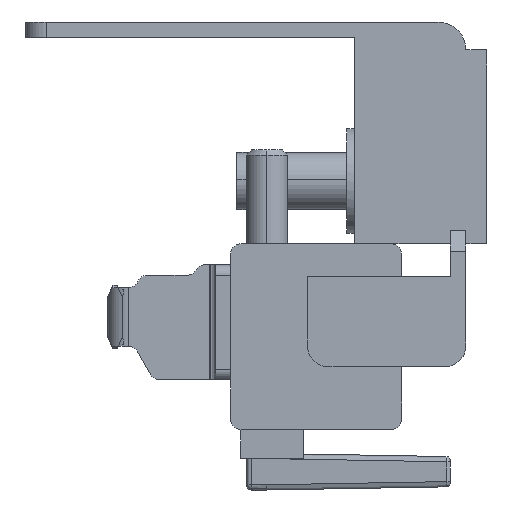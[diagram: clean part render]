
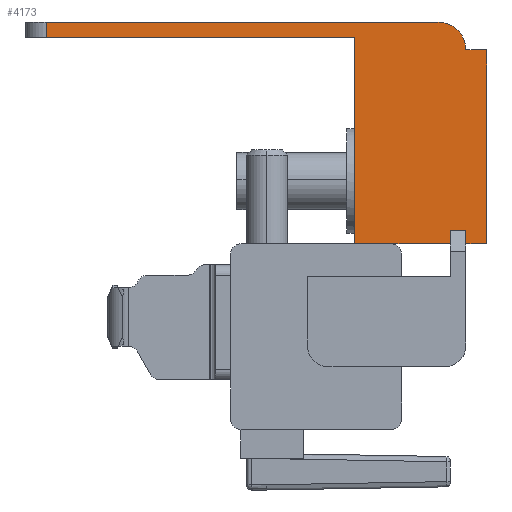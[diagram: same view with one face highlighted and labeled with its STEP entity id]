
A CAD part, left-side view. The second image highlights one B-rep face of the part: STEP entity #4173.
In plain terms, the highlighted planar face has unit normal (-1, 0, 0).
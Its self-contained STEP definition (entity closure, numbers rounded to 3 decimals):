
#27 = CARTESIAN_POINT ( 'NONE',  ( -316., -29.063, 15.779 ) ) ;
#80 = VERTEX_POINT ( 'NONE', #5488 ) ;
#311 = ORIENTED_EDGE ( 'NONE', *, *, #3158, .F. ) ;
#330 = EDGE_CURVE ( 'NONE', #3588, #1994, #5139, .T. ) ;
#338 = CARTESIAN_POINT ( 'NONE',  ( -316., -26.863, -1.651 ) ) ;
#349 = ORIENTED_EDGE ( 'NONE', *, *, #330, .F. ) ;
#450 = DIRECTION ( 'NONE',  ( 0., -1., 0. ) ) ;
#476 = DIRECTION ( 'NONE',  ( 0., 1., 0. ) ) ;
#536 = CARTESIAN_POINT ( 'NONE',  ( -316., -30.333, 16.879 ) ) ;
#624 = EDGE_CURVE ( 'NONE', #1154, #80, #4934, .T. ) ;
#626 = CARTESIAN_POINT ( 'NONE',  ( -316., -30.333, -1.651 ) ) ;
#725 = CARTESIAN_POINT ( 'NONE',  ( -316., -26.863, -0.361 ) ) ;
#765 = VECTOR ( 'NONE', #5023, 1000. ) ;
#830 = CARTESIAN_POINT ( 'NONE',  ( -316., -29.063, 18.079 ) ) ;
#843 = VECTOR ( 'NONE', #3059, 1000. ) ;
#893 = DIRECTION ( 'NONE',  ( 0., 1., 0. ) ) ;
#915 = EDGE_CURVE ( 'NONE', #1571, #1256, #1309, .T. ) ;
#974 = ORIENTED_EDGE ( 'NONE', *, *, #4892, .T. ) ;
#1043 = CARTESIAN_POINT ( 'NONE',  ( -316., -28.333, -1.651 ) ) ;
#1137 = ORIENTED_EDGE ( 'NONE', *, *, #4635, .F. ) ;
#1154 = VERTEX_POINT ( 'NONE', #725 ) ;
#1167 = VECTOR ( 'NONE', #3526, 1000. ) ;
#1190 = EDGE_CURVE ( 'NONE', #1540, #80, #2872, .T. ) ;
#1256 = VERTEX_POINT ( 'NONE', #4705 ) ;
#1269 = VECTOR ( 'NONE', #1965, 1000. ) ;
#1295 = LINE ( 'NONE', #2771, #4846 ) ;
#1309 = LINE ( 'NONE', #536, #1167 ) ;
#1323 = CARTESIAN_POINT ( 'NONE',  ( -316., -28.333, 16.879 ) ) ;
#1435 = EDGE_CURVE ( 'NONE', #2743, #3383, #2939, .T. ) ;
#1482 = CARTESIAN_POINT ( 'NONE',  ( -316., -17.713, -1.651 ) ) ;
#1499 = DIRECTION ( 'NONE',  ( 0., 0., -1. ) ) ;
#1533 = EDGE_CURVE ( 'NONE', #4618, #3383, #3163, .T. ) ;
#1540 = VERTEX_POINT ( 'NONE', #2352 ) ;
#1551 = AXIS2_PLACEMENT_3D ( 'NONE', #27, #3132, #476 ) ;
#1571 = VERTEX_POINT ( 'NONE', #5017 ) ;
#1624 = LINE ( 'NONE', #1482, #3852 ) ;
#1636 = EDGE_CURVE ( 'NONE', #4618, #1994, #1295, .T. ) ;
#1723 = ORIENTED_EDGE ( 'NONE', *, *, #1533, .F. ) ;
#1747 = DIRECTION ( 'NONE',  ( 0., -1., 0. ) ) ;
#1767 = CARTESIAN_POINT ( 'NONE',  ( -316., -17.713, 18.079 ) ) ;
#1932 = ORIENTED_EDGE ( 'NONE', *, *, #624, .F. ) ;
#1965 = DIRECTION ( 'NONE',  ( 0., 1., 0. ) ) ;
#1994 = VERTEX_POINT ( 'NONE', #2430 ) ;
#2150 = CARTESIAN_POINT ( 'NONE',  ( -316., 11.767, 19.549 ) ) ;
#2172 = FACE_OUTER_BOUND ( 'NONE', #4797, .T. ) ;
#2332 = DIRECTION ( 'NONE',  ( 0., 0., 1. ) ) ;
#2352 = CARTESIAN_POINT ( 'NONE',  ( -316., -17.713, -1.651 ) ) ;
#2391 = CARTESIAN_POINT ( 'NONE',  ( -316., -26.863, -0.361 ) ) ;
#2430 = CARTESIAN_POINT ( 'NONE',  ( -316., 11.767, 18.079 ) ) ;
#2539 = VECTOR ( 'NONE', #4362, 1000. ) ;
#2568 = VECTOR ( 'NONE', #5512, 1000. ) ;
#2612 = CARTESIAN_POINT ( 'NONE',  ( -316., -28.333, -1.651 ) ) ;
#2627 = CARTESIAN_POINT ( 'NONE',  ( -316., -17.713, -1.651 ) ) ;
#2716 = LINE ( 'NONE', #2391, #2568 ) ;
#2743 = VERTEX_POINT ( 'NONE', #1323 ) ;
#2771 = CARTESIAN_POINT ( 'NONE',  ( -316., 11.767, 17.779 ) ) ;
#2872 = LINE ( 'NONE', #2627, #4094 ) ;
#2939 = CIRCLE ( 'NONE', #3252, 2.67 ) ;
#3059 = DIRECTION ( 'NONE',  ( 0., 0., 1. ) ) ;
#3103 = VERTEX_POINT ( 'NONE', #1043 ) ;
#3132 = DIRECTION ( 'NONE',  ( 1., 0., 0. ) ) ;
#3158 = EDGE_CURVE ( 'NONE', #4022, #1154, #2716, .T. ) ;
#3163 = LINE ( 'NONE', #3855, #5248 ) ;
#3191 = EDGE_CURVE ( 'NONE', #1256, #3103, #3651, .T. ) ;
#3193 = DIRECTION ( 'NONE',  ( -1., 0., 0. ) ) ;
#3250 = CARTESIAN_POINT ( 'NONE',  ( -316., -30.333, 16.879 ) ) ;
#3252 = AXIS2_PLACEMENT_3D ( 'NONE', #3255, #3193, #3317 ) ;
#3255 = CARTESIAN_POINT ( 'NONE',  ( -316., -25.663, 16.879 ) ) ;
#3317 = DIRECTION ( 'NONE',  ( 0., 0., -1. ) ) ;
#3377 = ORIENTED_EDGE ( 'NONE', *, *, #915, .F. ) ;
#3383 = VERTEX_POINT ( 'NONE', #4336 ) ;
#3526 = DIRECTION ( 'NONE',  ( 0., 0., -1. ) ) ;
#3588 = VERTEX_POINT ( 'NONE', #1767 ) ;
#3651 = LINE ( 'NONE', #626, #1269 ) ;
#3852 = VECTOR ( 'NONE', #2332, 1000. ) ;
#3855 = CARTESIAN_POINT ( 'NONE',  ( -316., 14.667, 19.549 ) ) ;
#3899 = ORIENTED_EDGE ( 'NONE', *, *, #1636, .T. ) ;
#4022 = VERTEX_POINT ( 'NONE', #5258 ) ;
#4025 = PLANE ( 'NONE',  #1551 ) ;
#4094 = VECTOR ( 'NONE', #450, 1000. ) ;
#4173 = ADVANCED_FACE ( 'NONE', ( #2172 ), #4025, .F. ) ;
#4197 = LINE ( 'NONE', #3250, #765 ) ;
#4284 = EDGE_CURVE ( 'NONE', #1540, #3588, #1624, .T. ) ;
#4336 = CARTESIAN_POINT ( 'NONE',  ( -316., -25.663, 19.549 ) ) ;
#4362 = DIRECTION ( 'NONE',  ( 0., 0., -1. ) ) ;
#4404 = LINE ( 'NONE', #2612, #843 ) ;
#4481 = ORIENTED_EDGE ( 'NONE', *, *, #4284, .F. ) ;
#4618 = VERTEX_POINT ( 'NONE', #2150 ) ;
#4635 = EDGE_CURVE ( 'NONE', #3103, #4022, #4404, .T. ) ;
#4705 = CARTESIAN_POINT ( 'NONE',  ( -316., -30.333, -1.651 ) ) ;
#4797 = EDGE_LOOP ( 'NONE', ( #4481, #5159, #1932, #311, #1137, #5636, #3377, #974, #5651, #1723, #3899, #349 ) ) ;
#4846 = VECTOR ( 'NONE', #1499, 1000. ) ;
#4892 = EDGE_CURVE ( 'NONE', #1571, #2743, #4197, .T. ) ;
#4934 = LINE ( 'NONE', #338, #2539 ) ;
#5017 = CARTESIAN_POINT ( 'NONE',  ( -316., -30.333, 16.879 ) ) ;
#5023 = DIRECTION ( 'NONE',  ( 0., 1., 0. ) ) ;
#5139 = LINE ( 'NONE', #830, #5263 ) ;
#5159 = ORIENTED_EDGE ( 'NONE', *, *, #1190, .T. ) ;
#5248 = VECTOR ( 'NONE', #1747, 1000. ) ;
#5258 = CARTESIAN_POINT ( 'NONE',  ( -316., -28.333, -0.361 ) ) ;
#5263 = VECTOR ( 'NONE', #893, 1000. ) ;
#5488 = CARTESIAN_POINT ( 'NONE',  ( -316., -26.863, -1.651 ) ) ;
#5512 = DIRECTION ( 'NONE',  ( 0., 1., 0. ) ) ;
#5636 = ORIENTED_EDGE ( 'NONE', *, *, #3191, .F. ) ;
#5651 = ORIENTED_EDGE ( 'NONE', *, *, #1435, .T. ) ;
